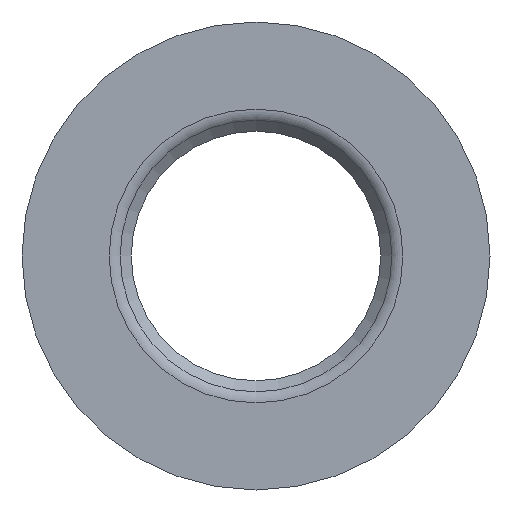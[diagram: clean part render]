
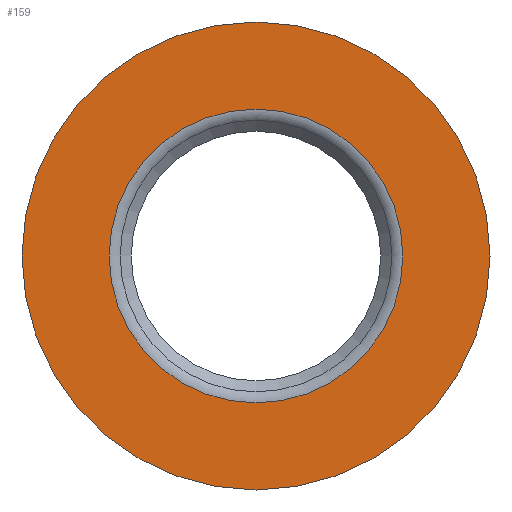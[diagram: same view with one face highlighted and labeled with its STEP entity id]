
A CAD part, left-side view. The second image highlights one B-rep face of the part: STEP entity #159.
In plain terms, the highlighted planar face has unit normal (-1, 0, 0).
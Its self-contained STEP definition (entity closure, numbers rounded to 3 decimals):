
#18=FACE_BOUND('',#40,.T.);
#21=PLANE('',#198);
#28=FACE_OUTER_BOUND('',#39,.T.);
#39=EDGE_LOOP('',(#122));
#40=EDGE_LOOP('',(#123));
#66=CIRCLE('',#196,9.414);
#68=CIRCLE('',#199,15.);
#81=VERTEX_POINT('',#287);
#82=VERTEX_POINT('',#291);
#95=EDGE_CURVE('',#81,#81,#66,.T.);
#97=EDGE_CURVE('',#82,#82,#68,.T.);
#122=ORIENTED_EDGE('',*,*,#97,.F.);
#123=ORIENTED_EDGE('',*,*,#95,.T.);
#159=ADVANCED_FACE('',(#28,#18),#21,.T.);
#196=AXIS2_PLACEMENT_3D('',#288,#230,#231);
#198=AXIS2_PLACEMENT_3D('',#290,#234,#235);
#199=AXIS2_PLACEMENT_3D('',#292,#236,#237);
#230=DIRECTION('center_axis',(1.,0.,0.));
#231=DIRECTION('ref_axis',(0.,0.,-1.));
#234=DIRECTION('center_axis',(-1.,0.,0.));
#235=DIRECTION('ref_axis',(0.,0.,1.));
#236=DIRECTION('center_axis',(1.,0.,0.));
#237=DIRECTION('ref_axis',(0.,0.,-1.));
#287=CARTESIAN_POINT('',(0.,0.,9.414));
#288=CARTESIAN_POINT('Origin',(0.,0.,0.));
#290=CARTESIAN_POINT('Origin',(0.,15.,0.));
#291=CARTESIAN_POINT('',(0.,-15.,0.));
#292=CARTESIAN_POINT('Origin',(0.,0.,0.));
